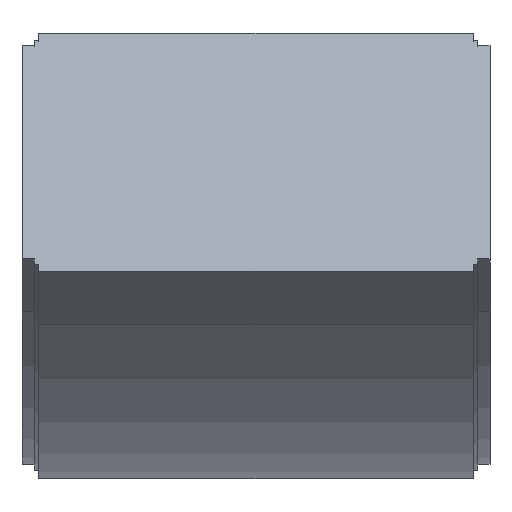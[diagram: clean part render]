
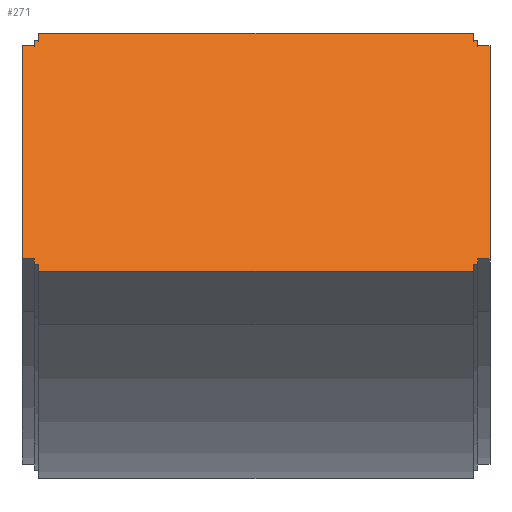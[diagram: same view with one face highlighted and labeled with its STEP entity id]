
A CAD part, top view. The second image highlights one B-rep face of the part: STEP entity #271.
In plain terms, the highlighted planar face has unit normal (0, 0.5, 0.866).
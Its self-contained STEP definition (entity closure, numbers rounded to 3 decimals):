
#4 = VECTOR ( 'NONE', #894, 1000. ) ;
#11 = LINE ( 'NONE', #302, #1168 ) ;
#37 = EDGE_CURVE ( 'NONE', #191, #968, #240, .T. ) ;
#43 = VERTEX_POINT ( 'NONE', #121 ) ;
#50 = VECTOR ( 'NONE', #900, 1000. ) ;
#53 = CARTESIAN_POINT ( 'NONE',  ( -107.95, 37.595, 380.091 ) ) ;
#73 = DIRECTION ( 'NONE',  ( 0., 0.866, -0.5 ) ) ;
#84 = ORIENTED_EDGE ( 'NONE', *, *, #327, .T. ) ;
#107 = LINE ( 'NONE', #939, #875 ) ;
#110 = EDGE_CURVE ( 'NONE', #270, #444, #273, .T. ) ;
#111 = ORIENTED_EDGE ( 'NONE', *, *, #313, .T. ) ;
#112 = EDGE_LOOP ( 'NONE', ( #308, #799, #522, #388, #1180, #1173, #111, #993, #1010, #631, #145, #84, #551, #150, #122, #578, #833, #205, #318, #630 ) ) ;
#121 = CARTESIAN_POINT ( 'NONE',  ( -107.95, 148.879, 315.841 ) ) ;
#122 = ORIENTED_EDGE ( 'NONE', *, *, #1042, .T. ) ;
#145 = ORIENTED_EDGE ( 'NONE', *, *, #756, .T. ) ;
#150 = ORIENTED_EDGE ( 'NONE', *, *, #871, .T. ) ;
#163 = CARTESIAN_POINT ( 'NONE',  ( -107.95, 148.879, 315.841 ) ) ;
#191 = VERTEX_POINT ( 'NONE', #705 ) ;
#195 = LINE ( 'NONE', #780, #237 ) ;
#205 = ORIENTED_EDGE ( 'NONE', *, *, #235, .T. ) ;
#226 = LINE ( 'NONE', #1387, #1098 ) ;
#228 = DIRECTION ( 'NONE',  ( -1., 0., 0. ) ) ;
#235 = EDGE_CURVE ( 'NONE', #968, #1055, #1288, .T. ) ;
#237 = VECTOR ( 'NONE', #687, 1000. ) ;
#240 = LINE ( 'NONE', #1405, #4 ) ;
#242 = CARTESIAN_POINT ( 'NONE',  ( -110.25, 148.879, 315.841 ) ) ;
#256 = EDGE_CURVE ( 'NONE', #1055, #981, #872, .T. ) ;
#257 = VECTOR ( 'NONE', #1052, 1000. ) ;
#262 = VECTOR ( 'NONE', #369, 1000. ) ;
#265 = EDGE_CURVE ( 'NONE', #444, #303, #523, .T. ) ;
#270 = VERTEX_POINT ( 'NONE', #605 ) ;
#271 = ADVANCED_FACE ( 'NONE', ( #290 ), #1009, .T. ) ;
#272 = DIRECTION ( 'NONE',  ( 0., 0.5, 0.866 ) ) ;
#273 = LINE ( 'NONE', #676, #657 ) ;
#278 = DIRECTION ( 'NONE',  ( 0., -0.866, 0.5 ) ) ;
#280 = VECTOR ( 'NONE', #1328, 1000. ) ;
#290 = FACE_OUTER_BOUND ( 'NONE', #112, .T. ) ;
#291 = VERTEX_POINT ( 'NONE', #948 ) ;
#296 = VECTOR ( 'NONE', #73, 1000. ) ;
#300 = EDGE_CURVE ( 'NONE', #1206, #539, #11, .T. ) ;
#302 = CARTESIAN_POINT ( 'NONE',  ( 110.25, 40.193, 378.591 ) ) ;
#303 = VERTEX_POINT ( 'NONE', #721 ) ;
#308 = ORIENTED_EDGE ( 'NONE', *, *, #453, .T. ) ;
#313 = EDGE_CURVE ( 'NONE', #1112, #726, #560, .T. ) ;
#318 = ORIENTED_EDGE ( 'NONE', *, *, #256, .T. ) ;
#322 = DIRECTION ( 'NONE',  ( 1., 0., 0. ) ) ;
#327 = EDGE_CURVE ( 'NONE', #291, #1206, #845, .T. ) ;
#333 = VERTEX_POINT ( 'NONE', #730 ) ;
#340 = CARTESIAN_POINT ( 'NONE',  ( -110.25, 148.879, 315.841 ) ) ;
#351 = CARTESIAN_POINT ( 'NONE',  ( 116.25, 40.193, 378.591 ) ) ;
#363 = CARTESIAN_POINT ( 'NONE',  ( 107.95, 148.879, 315.841 ) ) ;
#369 = DIRECTION ( 'NONE',  ( 0., 0.866, -0.5 ) ) ;
#388 = ORIENTED_EDGE ( 'NONE', *, *, #579, .T. ) ;
#394 = AXIS2_PLACEMENT_3D ( 'NONE', #163, #272, #1230 ) ;
#421 = VECTOR ( 'NONE', #818, 1000. ) ;
#427 = EDGE_CURVE ( 'NONE', #726, #270, #815, .T. ) ;
#444 = VERTEX_POINT ( 'NONE', #1216 ) ;
#449 = DIRECTION ( 'NONE',  ( 1., 0., 0. ) ) ;
#453 = EDGE_CURVE ( 'NONE', #43, #1194, #641, .T. ) ;
#477 = CARTESIAN_POINT ( 'NONE',  ( 110.25, 37.595, 380.091 ) ) ;
#491 = EDGE_CURVE ( 'NONE', #981, #43, #195, .T. ) ;
#498 = LINE ( 'NONE', #777, #280 ) ;
#522 = ORIENTED_EDGE ( 'NONE', *, *, #973, .T. ) ;
#523 = LINE ( 'NONE', #908, #421 ) ;
#539 = VERTEX_POINT ( 'NONE', #351 ) ;
#551 = ORIENTED_EDGE ( 'NONE', *, *, #300, .T. ) ;
#557 = VERTEX_POINT ( 'NONE', #883 ) ;
#560 = LINE ( 'NONE', #836, #1061 ) ;
#561 = CARTESIAN_POINT ( 'NONE',  ( -116.25, 146.281, 317.341 ) ) ;
#564 = EDGE_CURVE ( 'NONE', #1194, #333, #1092, .T. ) ;
#578 = ORIENTED_EDGE ( 'NONE', *, *, #1227, .T. ) ;
#579 = EDGE_CURVE ( 'NONE', #1073, #557, #1032, .T. ) ;
#582 = CARTESIAN_POINT ( 'NONE',  ( -110.25, 148.879, 315.841 ) ) ;
#585 = VECTOR ( 'NONE', #921, 1000. ) ;
#589 = VECTOR ( 'NONE', #1066, 1000. ) ;
#601 = CARTESIAN_POINT ( 'NONE',  ( -107.95, 152.344, 313.841 ) ) ;
#605 = CARTESIAN_POINT ( 'NONE',  ( -107.95, 34.131, 382.091 ) ) ;
#620 = VERTEX_POINT ( 'NONE', #786 ) ;
#630 = ORIENTED_EDGE ( 'NONE', *, *, #491, .T. ) ;
#631 = ORIENTED_EDGE ( 'NONE', *, *, #265, .T. ) ;
#641 = LINE ( 'NONE', #242, #50 ) ;
#645 = VECTOR ( 'NONE', #228, 1000. ) ;
#657 = VECTOR ( 'NONE', #449, 1000. ) ;
#670 = VECTOR ( 'NONE', #1104, 1000. ) ;
#676 = CARTESIAN_POINT ( 'NONE',  ( -107.95, 34.131, 382.091 ) ) ;
#684 = CARTESIAN_POINT ( 'NONE',  ( -116.25, 40.193, 378.591 ) ) ;
#687 = DIRECTION ( 'NONE',  ( 0., -0.866, 0.5 ) ) ;
#705 = CARTESIAN_POINT ( 'NONE',  ( 110.25, 148.879, 315.841 ) ) ;
#712 = VERTEX_POINT ( 'NONE', #798 ) ;
#721 = CARTESIAN_POINT ( 'NONE',  ( 107.95, 37.595, 380.091 ) ) ;
#726 = VERTEX_POINT ( 'NONE', #53 ) ;
#730 = CARTESIAN_POINT ( 'NONE',  ( -110.25, 146.281, 317.341 ) ) ;
#742 = CARTESIAN_POINT ( 'NONE',  ( 107.95, 148.879, 315.841 ) ) ;
#756 = EDGE_CURVE ( 'NONE', #303, #291, #1213, .T. ) ;
#765 = CARTESIAN_POINT ( 'NONE',  ( 110.25, 146.281, 317.341 ) ) ;
#777 = CARTESIAN_POINT ( 'NONE',  ( 110.25, 148.879, 315.841 ) ) ;
#780 = CARTESIAN_POINT ( 'NONE',  ( -107.95, 148.879, 315.841 ) ) ;
#786 = CARTESIAN_POINT ( 'NONE',  ( 116.25, 146.281, 317.341 ) ) ;
#798 = CARTESIAN_POINT ( 'NONE',  ( 110.25, 146.281, 317.341 ) ) ;
#799 = ORIENTED_EDGE ( 'NONE', *, *, #564, .T. ) ;
#815 = LINE ( 'NONE', #849, #257 ) ;
#818 = DIRECTION ( 'NONE',  ( 0., 0.866, -0.5 ) ) ;
#833 = ORIENTED_EDGE ( 'NONE', *, *, #37, .T. ) ;
#836 = CARTESIAN_POINT ( 'NONE',  ( -110.25, 37.595, 380.091 ) ) ;
#837 = DIRECTION ( 'NONE',  ( 1., 0., 0. ) ) ;
#845 = LINE ( 'NONE', #1044, #296 ) ;
#849 = CARTESIAN_POINT ( 'NONE',  ( -107.95, 37.595, 380.091 ) ) ;
#851 = CARTESIAN_POINT ( 'NONE',  ( -107.95, 152.344, 313.841 ) ) ;
#871 = EDGE_CURVE ( 'NONE', #539, #620, #107, .T. ) ;
#872 = LINE ( 'NONE', #601, #585 ) ;
#875 = VECTOR ( 'NONE', #944, 1000. ) ;
#883 = CARTESIAN_POINT ( 'NONE',  ( -116.25, 40.193, 378.591 ) ) ;
#894 = DIRECTION ( 'NONE',  ( -1., 0., 0. ) ) ;
#900 = DIRECTION ( 'NONE',  ( -1., 0., 0. ) ) ;
#908 = CARTESIAN_POINT ( 'NONE',  ( 107.95, 37.595, 380.091 ) ) ;
#921 = DIRECTION ( 'NONE',  ( -1., 0., 0. ) ) ;
#937 = VECTOR ( 'NONE', #837, 1000. ) ;
#939 = CARTESIAN_POINT ( 'NONE',  ( 116.25, 40.193, 378.591 ) ) ;
#941 = EDGE_CURVE ( 'NONE', #557, #987, #226, .T. ) ;
#944 = DIRECTION ( 'NONE',  ( 0., 0.866, -0.5 ) ) ;
#948 = CARTESIAN_POINT ( 'NONE',  ( 110.25, 37.595, 380.091 ) ) ;
#968 = VERTEX_POINT ( 'NONE', #742 ) ;
#973 = EDGE_CURVE ( 'NONE', #333, #1073, #1286, .T. ) ;
#981 = VERTEX_POINT ( 'NONE', #851 ) ;
#987 = VERTEX_POINT ( 'NONE', #1391 ) ;
#990 = CARTESIAN_POINT ( 'NONE',  ( 107.95, 152.344, 313.841 ) ) ;
#993 = ORIENTED_EDGE ( 'NONE', *, *, #427, .T. ) ;
#1005 = DIRECTION ( 'NONE',  ( 0., -0.866, 0.5 ) ) ;
#1009 = PLANE ( 'NONE',  #394 ) ;
#1010 = ORIENTED_EDGE ( 'NONE', *, *, #110, .T. ) ;
#1017 = VECTOR ( 'NONE', #1005, 1000. ) ;
#1032 = LINE ( 'NONE', #684, #1017 ) ;
#1042 = EDGE_CURVE ( 'NONE', #620, #712, #1119, .T. ) ;
#1044 = CARTESIAN_POINT ( 'NONE',  ( 110.25, 37.595, 380.091 ) ) ;
#1052 = DIRECTION ( 'NONE',  ( 0., -0.866, 0.5 ) ) ;
#1055 = VERTEX_POINT ( 'NONE', #990 ) ;
#1061 = VECTOR ( 'NONE', #1260, 1000. ) ;
#1066 = DIRECTION ( 'NONE',  ( -1., 0., 0. ) ) ;
#1073 = VERTEX_POINT ( 'NONE', #561 ) ;
#1092 = LINE ( 'NONE', #340, #670 ) ;
#1098 = VECTOR ( 'NONE', #322, 1000. ) ;
#1100 = CARTESIAN_POINT ( 'NONE',  ( -110.25, 37.595, 380.091 ) ) ;
#1104 = DIRECTION ( 'NONE',  ( 0., -0.866, 0.5 ) ) ;
#1112 = VERTEX_POINT ( 'NONE', #1307 ) ;
#1119 = LINE ( 'NONE', #765, #645 ) ;
#1164 = CARTESIAN_POINT ( 'NONE',  ( -110.25, 146.281, 317.341 ) ) ;
#1168 = VECTOR ( 'NONE', #1254, 1000. ) ;
#1169 = VECTOR ( 'NONE', #278, 1000. ) ;
#1173 = ORIENTED_EDGE ( 'NONE', *, *, #1235, .T. ) ;
#1180 = ORIENTED_EDGE ( 'NONE', *, *, #941, .T. ) ;
#1194 = VERTEX_POINT ( 'NONE', #582 ) ;
#1204 = CARTESIAN_POINT ( 'NONE',  ( 110.25, 40.193, 378.591 ) ) ;
#1206 = VERTEX_POINT ( 'NONE', #1204 ) ;
#1213 = LINE ( 'NONE', #477, #937 ) ;
#1216 = CARTESIAN_POINT ( 'NONE',  ( 107.95, 34.131, 382.091 ) ) ;
#1227 = EDGE_CURVE ( 'NONE', #712, #191, #498, .T. ) ;
#1230 = DIRECTION ( 'NONE',  ( 1., 0., 0. ) ) ;
#1235 = EDGE_CURVE ( 'NONE', #987, #1112, #1393, .T. ) ;
#1254 = DIRECTION ( 'NONE',  ( 1., 0., 0. ) ) ;
#1260 = DIRECTION ( 'NONE',  ( 1., 0., 0. ) ) ;
#1286 = LINE ( 'NONE', #1164, #589 ) ;
#1288 = LINE ( 'NONE', #363, #262 ) ;
#1307 = CARTESIAN_POINT ( 'NONE',  ( -110.25, 37.595, 380.091 ) ) ;
#1328 = DIRECTION ( 'NONE',  ( 0., 0.866, -0.5 ) ) ;
#1387 = CARTESIAN_POINT ( 'NONE',  ( -110.25, 40.193, 378.591 ) ) ;
#1391 = CARTESIAN_POINT ( 'NONE',  ( -110.25, 40.193, 378.591 ) ) ;
#1393 = LINE ( 'NONE', #1100, #1169 ) ;
#1405 = CARTESIAN_POINT ( 'NONE',  ( 110.25, 148.879, 315.841 ) ) ;
